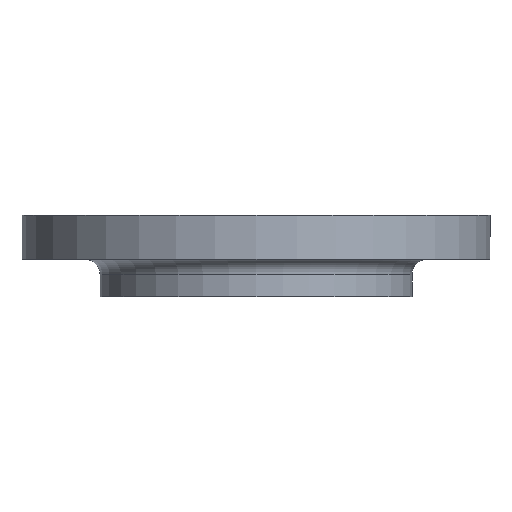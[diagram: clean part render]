
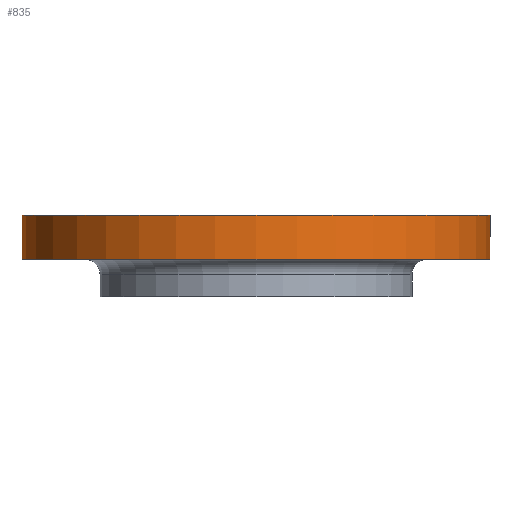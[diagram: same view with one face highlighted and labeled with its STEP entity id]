
A CAD part, front view. The second image highlights one B-rep face of the part: STEP entity #835.
In plain terms, the highlighted cylindrical face has radius 150 mm (diameter 300 mm), a partial arc.
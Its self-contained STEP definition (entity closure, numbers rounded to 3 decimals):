
#75 = EDGE_CURVE ( 'NONE', #696, #748, #629, .T. ) ;
#89 = VERTEX_POINT ( 'NONE', #357 ) ;
#102 = LINE ( 'NONE', #141, #103 ) ;
#103 = VECTOR ( 'NONE', #152, 1000. ) ;
#141 = CARTESIAN_POINT ( 'NONE',  ( 150., 0., -85. ) ) ;
#152 = DIRECTION ( 'NONE',  ( 0., 0., 1. ) ) ;
#166 = CIRCLE ( 'NONE', #248, 150. ) ;
#212 = VERTEX_POINT ( 'NONE', #623 ) ;
#248 = AXIS2_PLACEMENT_3D ( 'NONE', #576, #574, #573 ) ;
#281 = VECTOR ( 'NONE', #304, 1000. ) ;
#299 = EDGE_CURVE ( 'NONE', #89, #212, #166, .T. ) ;
#304 = DIRECTION ( 'NONE',  ( 0., 0., 1. ) ) ;
#308 = CARTESIAN_POINT ( 'NONE',  ( -150., 0., -28. ) ) ;
#350 = CARTESIAN_POINT ( 'NONE',  ( 0., 0., -28. ) ) ;
#351 = CARTESIAN_POINT ( 'NONE',  ( 0., 0., -85. ) ) ;
#353 = DIRECTION ( 'NONE',  ( 0., 0., 1. ) ) ;
#354 = DIRECTION ( 'NONE',  ( 1., 0., 0. ) ) ;
#357 = CARTESIAN_POINT ( 'NONE',  ( -150., 0., 0. ) ) ;
#428 = EDGE_CURVE ( 'NONE', #748, #212, #102, .T. ) ;
#573 = DIRECTION ( 'NONE',  ( 1., 0., 0. ) ) ;
#574 = DIRECTION ( 'NONE',  ( 0., 0., 1. ) ) ;
#575 = DIRECTION ( 'NONE',  ( 0., 0., 1. ) ) ;
#576 = CARTESIAN_POINT ( 'NONE',  ( 0., 0., 0. ) ) ;
#596 = LINE ( 'NONE', #875, #281 ) ;
#599 = AXIS2_PLACEMENT_3D ( 'NONE', #351, #575, #823 ) ;
#623 = CARTESIAN_POINT ( 'NONE',  ( 150., 0., 0. ) ) ;
#626 = FACE_OUTER_BOUND ( 'NONE', #871, .T. ) ;
#629 = CIRCLE ( 'NONE', #919, 150. ) ;
#664 = EDGE_CURVE ( 'NONE', #696, #89, #596, .T. ) ;
#696 = VERTEX_POINT ( 'NONE', #308 ) ;
#748 = VERTEX_POINT ( 'NONE', #893 ) ;
#786 = ORIENTED_EDGE ( 'NONE', *, *, #664, .F. ) ;
#787 = ORIENTED_EDGE ( 'NONE', *, *, #75, .T. ) ;
#799 = ORIENTED_EDGE ( 'NONE', *, *, #428, .T. ) ;
#803 = ORIENTED_EDGE ( 'NONE', *, *, #299, .F. ) ;
#823 = DIRECTION ( 'NONE',  ( 1., 0., 0. ) ) ;
#835 = ADVANCED_FACE ( 'NONE', ( #626 ), #902, .T. ) ;
#871 = EDGE_LOOP ( 'NONE', ( #786, #787, #799, #803 ) ) ;
#875 = CARTESIAN_POINT ( 'NONE',  ( -150., 0., -85. ) ) ;
#893 = CARTESIAN_POINT ( 'NONE',  ( 150., 0., -28. ) ) ;
#902 = CYLINDRICAL_SURFACE ( 'NONE', #599, 150. ) ;
#919 = AXIS2_PLACEMENT_3D ( 'NONE', #350, #353, #354 ) ;
